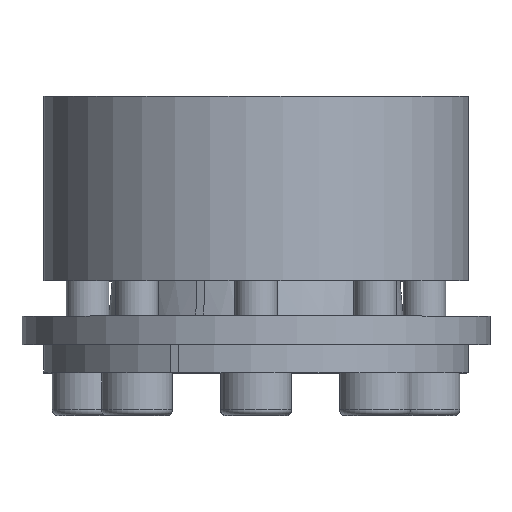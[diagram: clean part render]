
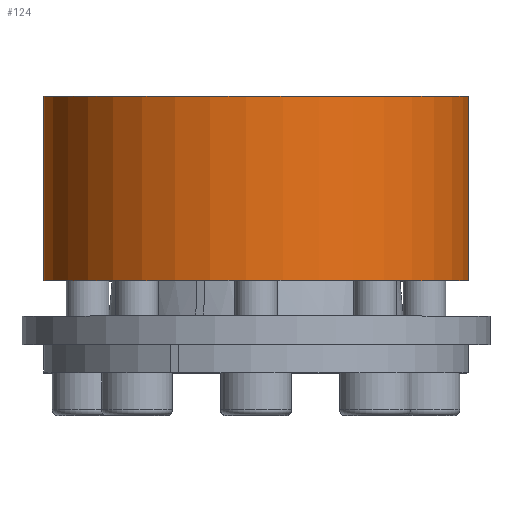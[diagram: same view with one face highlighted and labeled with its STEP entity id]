
A CAD part, top view. The second image highlights one B-rep face of the part: STEP entity #124.
In plain terms, the highlighted cylindrical face has radius 30 mm (diameter 60 mm), a partial arc.
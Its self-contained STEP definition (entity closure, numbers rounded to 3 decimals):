
#124 = ADVANCED_FACE( '', ( #291 ), #292, .T. );
#291 = FACE_OUTER_BOUND( '', #485, .T. );
#292 = CYLINDRICAL_SURFACE( '', #486, 30. );
#485 = EDGE_LOOP( '', ( #809, #810, #811, #812 ) );
#486 = AXIS2_PLACEMENT_3D( '', #813, #814, #815 );
#809 = ORIENTED_EDGE( '', *, *, #1130, .F. );
#810 = ORIENTED_EDGE( '', *, *, #1141, .T. );
#811 = ORIENTED_EDGE( '', *, *, #1048, .T. );
#812 = ORIENTED_EDGE( '', *, *, #1099, .F. );
#813 = CARTESIAN_POINT( '', ( 0., -60., 0. ) );
#814 = DIRECTION( '', ( 0., 1., 0. ) );
#815 = DIRECTION( '', ( 0., 0., -1. ) );
#1048 = EDGE_CURVE( '', #1266, #1267, #1268, .T. );
#1099 = EDGE_CURVE( '', #1350, #1267, #1351, .F. );
#1130 = EDGE_CURVE( '', #1397, #1350, #1399, .T. );
#1141 = EDGE_CURVE( '', #1397, #1266, #1415, .F. );
#1266 = VERTEX_POINT( '', #1637 );
#1267 = VERTEX_POINT( '', #1638 );
#1268 = CIRCLE( '', #1639, 30. );
#1350 = VERTEX_POINT( '', #1729 );
#1351 = LINE( '', #1730, #1731 );
#1397 = VERTEX_POINT( '', #1802 );
#1399 = CIRCLE( '', #1805, 30. );
#1415 = LINE( '', #1827, #1828 );
#1637 = CARTESIAN_POINT( '', ( 12.033, 39., -27.481 ) );
#1638 = CARTESIAN_POINT( '', ( 10.924, 39., -27.94 ) );
#1639 = AXIS2_PLACEMENT_3D( '', #1951, #1952, #1953 );
#1729 = CARTESIAN_POINT( '', ( 10.924, 13., -27.94 ) );
#1730 = CARTESIAN_POINT( '', ( 10.924, -60., -27.94 ) );
#1731 = VECTOR( '', #2061, 1000. );
#1802 = CARTESIAN_POINT( '', ( 12.033, 13., -27.481 ) );
#1805 = AXIS2_PLACEMENT_3D( '', #2097, #2098, #2099 );
#1827 = CARTESIAN_POINT( '', ( 12.033, -60., -27.481 ) );
#1828 = VECTOR( '', #2109, 1000. );
#1951 = CARTESIAN_POINT( '', ( 0., 39., 0. ) );
#1952 = DIRECTION( '', ( 0., -1., 0. ) );
#1953 = DIRECTION( '', ( 0., 0., -1. ) );
#2061 = DIRECTION( '', ( 0., -1., 0. ) );
#2097 = CARTESIAN_POINT( '', ( 0., 13., 0. ) );
#2098 = DIRECTION( '', ( 0., -1., 0. ) );
#2099 = DIRECTION( '', ( 0., 0., -1. ) );
#2109 = DIRECTION( '', ( 0., -1., 0. ) );
